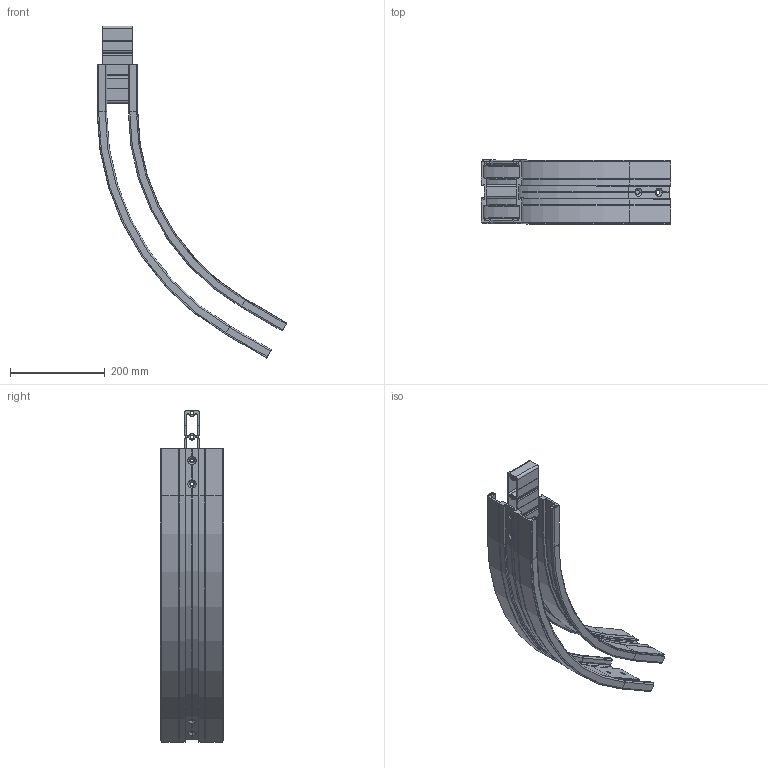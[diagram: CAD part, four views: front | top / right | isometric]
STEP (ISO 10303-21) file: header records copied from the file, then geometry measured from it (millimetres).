
FILE_DESCRIPTION (( 'STEP AP203' ), '1' );
FILE_NAME ('R2C500-60.STEP', '2008-12-02T09:28:43', ( 'faber' ), ( '' ), 'SwSTEP 2.0', 'SolidWorks 2008', '' );
FILE_SCHEMA (( 'CONFIG_CONTROL_DESIGN' ));
Length unit declared in the file: millimetre
Products named in the file (1): R2C500-60
Bounding box: 401.1 x 135 x 702 mm (x, y, z)
Surface area: 634862.8 mm2 (no closed solid volume)
Topology: 0 solids, 21 shells, 499 faces, 1712 edges, 1184 vertices
Faces by surface type: plane 227, cylinder 206, torus 38, cone 28
Entity records: 18403 total; most frequent: CARTESIAN_POINT 3492, DIRECTION 3286, ORIENTED_EDGE 2696, EDGE_CURVE 1712, VERTEX_POINT 1184, AXIS2_PLACEMENT_3D 1106, VECTOR 1074, LINE 1074
